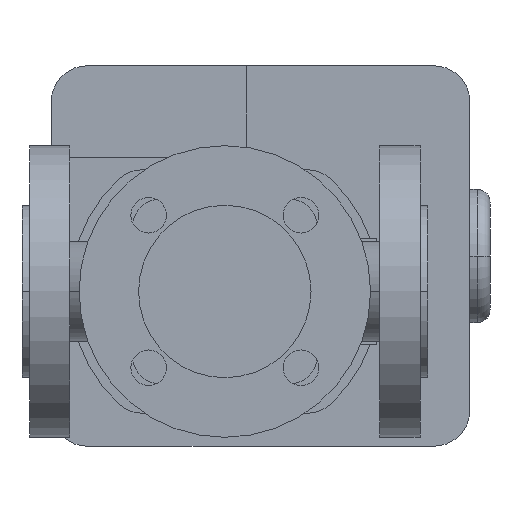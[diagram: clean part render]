
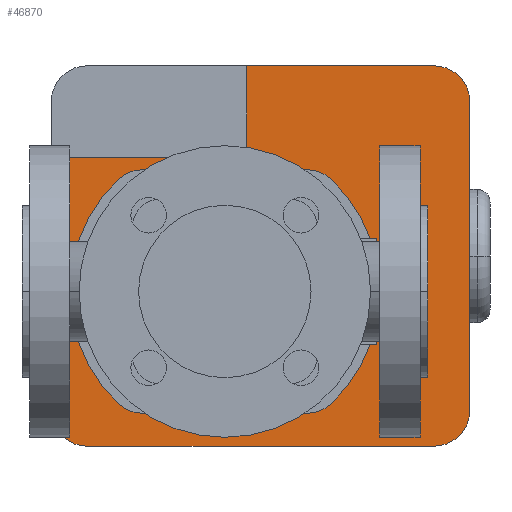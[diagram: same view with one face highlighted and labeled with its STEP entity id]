
A CAD part, front view. The second image highlights one B-rep face of the part: STEP entity #46870.
In plain terms, the highlighted planar face has unit normal (0, -1, 0).
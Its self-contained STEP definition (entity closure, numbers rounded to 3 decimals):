
#38610=CARTESIAN_POINT('',(139.96,317.,11.216));
#38620=VERTEX_POINT('',#38610);
#38650=CARTESIAN_POINT('',(130.,317.,0.));
#38660=DIRECTION('',(0.,1.,0.));
#38670=DIRECTION('',(0.,0.,1.));
#38680=AXIS2_PLACEMENT_3D('',#38650,#38660,#38670);
#38690=CIRCLE('',#38680,15.);
#38700=CARTESIAN_POINT('',(139.96,317.,-11.216));
#38710=VERTEX_POINT('',#38700);
#38720=EDGE_CURVE('',#38620,#38710,#38690,.T.);
#41440=CARTESIAN_POINT('',(122.116,317.,44.128));
#41450=VERTEX_POINT('',#41440);
#41480=CARTESIAN_POINT('',(80.,317.,0.));
#41490=DIRECTION('',(0.,1.,0.));
#41500=DIRECTION('',(0.69,0.,0.723));
#41510=AXIS2_PLACEMENT_3D('',#41480,#41490,#41500);
#41520=CIRCLE('',#41510,61.);
#41530=EDGE_CURVE('',#41450,#38620,#41520,.T.);
#41920=CARTESIAN_POINT('',(20.04,317.,-11.216));
#41930=VERTEX_POINT('',#41920);
#41960=CARTESIAN_POINT('',(30.,317.,0.));
#41970=DIRECTION('',(0.,1.,0.));
#41980=DIRECTION('',(0.,0.,-1.));
#41990=AXIS2_PLACEMENT_3D('',#41960,#41970,#41980);
#42000=CIRCLE('',#41990,15.);
#42010=CARTESIAN_POINT('',(20.04,317.,11.216));
#42020=VERTEX_POINT('',#42010);
#42030=EDGE_CURVE('',#41930,#42020,#42000,.T.);
#43020=CARTESIAN_POINT('',(37.884,317.,-44.128));
#43030=VERTEX_POINT('',#43020);
#43060=CARTESIAN_POINT('',(80.,317.,0.));
#43070=DIRECTION('',(0.,1.,0.));
#43080=DIRECTION('',(-0.69,0.,-0.723));
#43090=AXIS2_PLACEMENT_3D('',#43060,#43070,#43080);
#43100=CIRCLE('',#43090,61.);
#43110=EDGE_CURVE('',#43030,#41930,#43100,.T.);
#45330=CARTESIAN_POINT('',(80.,317.,0.));
#45340=DIRECTION('',(0.,1.,0.));
#45350=DIRECTION('',(0.,0.,1.));
#45360=AXIS2_PLACEMENT_3D('',#45330,#45340,#45350);
#45370=PLANE('',#45360);
#45380=ORIENTED_EDGE('',*,*,#41530,.T.);
#45390=CARTESIAN_POINT('',(112.45,317.,34.));
#45400=DIRECTION('',(0.,1.,0.));
#45410=DIRECTION('',(0.,0.,1.));
#45420=AXIS2_PLACEMENT_3D('',#45390,#45400,#45410);
#45430=CIRCLE('',#45420,14.);
#45440=CARTESIAN_POINT('',(112.45,317.,48.));
#45450=VERTEX_POINT('',#45440);
#45460=EDGE_CURVE('',#45450,#41450,#45430,.T.);
#45470=ORIENTED_EDGE('',*,*,#45460,.T.);
#45480=CARTESIAN_POINT('',(63.775,317.,48.));
#45490=DIRECTION('',(1.,0.,0.));
#45500=VECTOR('',#45490,1.);
#45510=LINE('',#45480,#45500);
#45520=CARTESIAN_POINT('',(47.55,317.,48.));
#45530=VERTEX_POINT('',#45520);
#45540=EDGE_CURVE('',#45530,#45450,#45510,.T.);
#45550=ORIENTED_EDGE('',*,*,#45540,.T.);
#45560=CARTESIAN_POINT('',(47.55,317.,34.));
#45570=DIRECTION('',(0.,1.,0.));
#45580=DIRECTION('',(-0.69,0.,0.723));
#45590=AXIS2_PLACEMENT_3D('',#45560,#45570,#45580);
#45600=CIRCLE('',#45590,14.);
#45610=CARTESIAN_POINT('',(37.884,317.,44.128));
#45620=VERTEX_POINT('',#45610);
#45630=EDGE_CURVE('',#45620,#45530,#45600,.T.);
#45640=ORIENTED_EDGE('',*,*,#45630,.T.);
#45650=CARTESIAN_POINT('',(80.,317.,0.));
#45660=DIRECTION('',(0.,1.,0.));
#45670=DIRECTION('',(-0.69,0.,-0.723));
#45680=AXIS2_PLACEMENT_3D('',#45650,#45660,#45670);
#45690=CIRCLE('',#45680,61.);
#45700=EDGE_CURVE('',#42020,#45620,#45690,.T.);
#45710=ORIENTED_EDGE('',*,*,#45700,.T.);
#45720=ORIENTED_EDGE('',*,*,#42030,.T.);
#45730=ORIENTED_EDGE('',*,*,#43110,.T.);
#45740=CARTESIAN_POINT('',(47.55,317.,-34.));
#45750=DIRECTION('',(0.,1.,0.));
#45760=DIRECTION('',(0.,0.,-1.));
#45770=AXIS2_PLACEMENT_3D('',#45740,#45750,#45760);
#45780=CIRCLE('',#45770,14.);
#45790=CARTESIAN_POINT('',(47.55,317.,-48.));
#45800=VERTEX_POINT('',#45790);
#45810=EDGE_CURVE('',#45800,#43030,#45780,.T.);
#45820=ORIENTED_EDGE('',*,*,#45810,.T.);
#45830=CARTESIAN_POINT('',(96.225,317.,-48.));
#45840=DIRECTION('',(-1.,0.,0.));
#45850=VECTOR('',#45840,1.);
#45860=LINE('',#45830,#45850);
#45870=CARTESIAN_POINT('',(112.45,317.,-48.));
#45880=VERTEX_POINT('',#45870);
#45890=EDGE_CURVE('',#45880,#45800,#45860,.T.);
#45900=ORIENTED_EDGE('',*,*,#45890,.T.);
#45910=CARTESIAN_POINT('',(112.45,317.,-34.));
#45920=DIRECTION('',(0.,1.,0.));
#45930=DIRECTION('',(0.69,0.,-0.723));
#45940=AXIS2_PLACEMENT_3D('',#45910,#45920,#45930);
#45950=CIRCLE('',#45940,14.);
#45960=CARTESIAN_POINT('',(122.116,317.,-44.128));
#45970=VERTEX_POINT('',#45960);
#45980=EDGE_CURVE('',#45970,#45880,#45950,.T.);
#45990=ORIENTED_EDGE('',*,*,#45980,.T.);
#46000=CARTESIAN_POINT('',(80.,317.,0.));
#46010=DIRECTION('',(0.,1.,0.));
#46020=DIRECTION('',(0.69,0.,0.723));
#46030=AXIS2_PLACEMENT_3D('',#46000,#46010,#46020);
#46040=CIRCLE('',#46030,61.);
#46050=EDGE_CURVE('',#38710,#45970,#46040,.T.);
#46060=ORIENTED_EDGE('',*,*,#46050,.T.);
#46070=ORIENTED_EDGE('',*,*,#38720,.T.);
#46080=EDGE_LOOP('',(#46070,#46060,#45990,#45900,#45820,#45730,#45720,
#45710,#45640,#45550,#45470,#45380));
#46090=FACE_BOUND('',#46080,.T.);
#46100=CARTESIAN_POINT('',(88.6,317.,26.5));
#46110=DIRECTION('',(0.,0.,-1.));
#46120=VECTOR('',#46110,1.);
#46130=LINE('',#46100,#46120);
#46140=CARTESIAN_POINT('',(88.6,317.,89.));
#46150=VERTEX_POINT('',#46140);
#46160=CARTESIAN_POINT('',(88.6,317.,53.));
#46170=VERTEX_POINT('',#46160);
#46180=EDGE_CURVE('',#46150,#46170,#46130,.T.);
#46190=ORIENTED_EDGE('',*,*,#46180,.T.);
#46200=CARTESIAN_POINT('',(25.6,317.,89.));
#46210=DIRECTION('',(1.,0.,0.));
#46220=VECTOR('',#46210,1.);
#46230=LINE('',#46200,#46220);
#46240=CARTESIAN_POINT('',(162.6,317.,89.));
#46250=VERTEX_POINT('',#46240);
#46260=EDGE_CURVE('',#46150,#46250,#46230,.T.);
#46270=ORIENTED_EDGE('',*,*,#46260,.F.);
#46280=CARTESIAN_POINT('',(162.6,317.,75.));
#46290=DIRECTION('',(0.,1.,0.));
#46300=DIRECTION('',(0.,0.,1.));
#46310=AXIS2_PLACEMENT_3D('',#46280,#46290,#46300);
#46320=CIRCLE('',#46310,14.);
#46330=CARTESIAN_POINT('',(176.6,317.,75.));
#46340=VERTEX_POINT('',#46330);
#46350=EDGE_CURVE('',#46250,#46340,#46320,.T.);
#46360=ORIENTED_EDGE('',*,*,#46350,.F.);
#46370=CARTESIAN_POINT('',(176.6,317.,75.));
#46380=DIRECTION('',(0.,0.,-1.));
#46390=VECTOR('',#46380,1.);
#46400=LINE('',#46370,#46390);
#46410=CARTESIAN_POINT('',(176.6,317.,-47.));
#46420=VERTEX_POINT('',#46410);
#46430=EDGE_CURVE('',#46340,#46420,#46400,.T.);
#46440=ORIENTED_EDGE('',*,*,#46430,.F.);
#46450=CARTESIAN_POINT('',(162.6,317.,-47.));
#46460=DIRECTION('',(0.,1.,0.));
#46470=DIRECTION('',(1.,0.,0.));
#46480=AXIS2_PLACEMENT_3D('',#46450,#46460,#46470);
#46490=CIRCLE('',#46480,14.);
#46500=CARTESIAN_POINT('',(162.6,317.,-61.));
#46510=VERTEX_POINT('',#46500);
#46520=EDGE_CURVE('',#46420,#46510,#46490,.T.);
#46530=ORIENTED_EDGE('',*,*,#46520,.F.);
#46540=CARTESIAN_POINT('',(162.6,317.,-61.));
#46550=DIRECTION('',(-1.,0.,0.));
#46560=VECTOR('',#46550,1.);
#46570=LINE('',#46540,#46560);
#46580=CARTESIAN_POINT('',(25.6,317.,-61.));
#46590=VERTEX_POINT('',#46580);
#46600=EDGE_CURVE('',#46510,#46590,#46570,.T.);
#46610=ORIENTED_EDGE('',*,*,#46600,.F.);
#46620=CARTESIAN_POINT('',(25.6,317.,-47.));
#46630=DIRECTION('',(0.,1.,0.));
#46640=DIRECTION('',(0.,0.,-1.));
#46650=AXIS2_PLACEMENT_3D('',#46620,#46630,#46640);
#46660=CIRCLE('',#46650,14.);
#46670=CARTESIAN_POINT('',(11.6,317.,-47.));
#46680=VERTEX_POINT('',#46670);
#46690=EDGE_CURVE('',#46590,#46680,#46660,.T.);
#46700=ORIENTED_EDGE('',*,*,#46690,.F.);
#46710=CARTESIAN_POINT('',(11.6,317.,-47.));
#46720=DIRECTION('',(0.,0.,1.));
#46730=VECTOR('',#46720,1.);
#46740=LINE('',#46710,#46730);
#46750=CARTESIAN_POINT('',(11.6,317.,53.));
#46760=VERTEX_POINT('',#46750);
#46770=EDGE_CURVE('',#46680,#46760,#46740,.T.);
#46780=ORIENTED_EDGE('',*,*,#46770,.F.);
#46790=CARTESIAN_POINT('',(45.3,317.,53.));
#46800=DIRECTION('',(-1.,0.,0.));
#46810=VECTOR('',#46800,1.);
#46820=LINE('',#46790,#46810);
#46830=EDGE_CURVE('',#46170,#46760,#46820,.T.);
#46840=ORIENTED_EDGE('',*,*,#46830,.T.);
#46850=EDGE_LOOP('',(#46840,#46780,#46700,#46610,#46530,#46440,#46360,
#46270,#46190));
#46860=FACE_OUTER_BOUND('',#46850,.T.);
#46870=ADVANCED_FACE('',(#46090,#46860),#45370,.F.);
